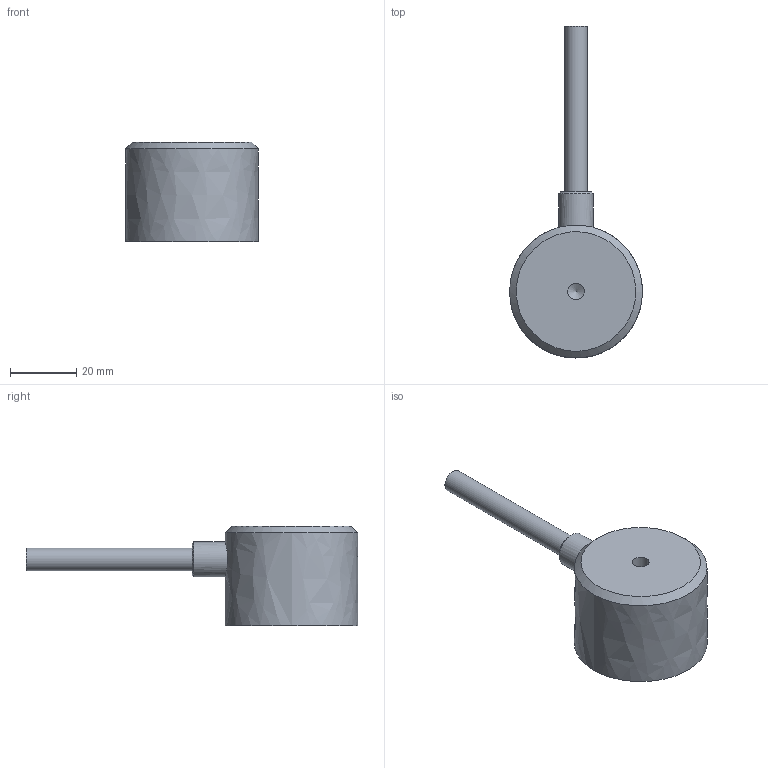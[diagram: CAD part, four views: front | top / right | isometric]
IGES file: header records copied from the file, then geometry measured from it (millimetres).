
Global section: file name: EMH-1-40Dx30H-S-DC24V; native system: unknown; preprocessor: unknown; author: unknown; organization: unknown; date: 20231215.114339; units: millimetre
Bounding box: 40 x 100 x 30 mm (x, y, z)
Volume: 39677.9 mm3; surface area: 7877.8 mm2
Topology: 2 solids, 2 shells, 16 faces, 30 edges, 21 vertices
Faces by surface type: bspline 16
